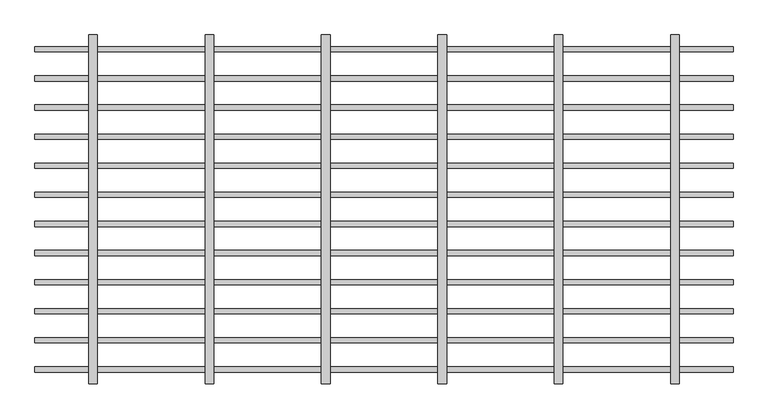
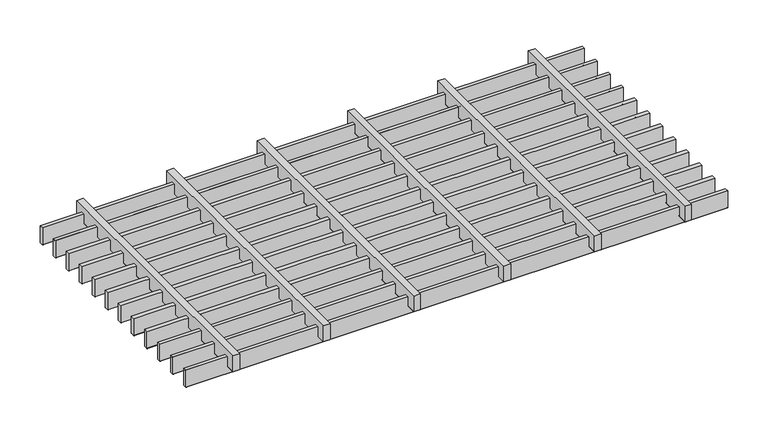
"""IFC4 building model written with IfcOpenShell, lengths in millimetres: proxy geometry, durlum_STARLAM_panel : durlum_STARLAM_9."""

from ifc_helpers import new_model, si_unit, point, frame, frame_2d, origin, place, context, project, spatial, polyline, circle_curve, trimmed, segment, composite_curve, outline, extrude, source, transform, mapped, element, save


def generic_models_532bcb0d(model_context):
    return source(origin(), model_context, "Body", "SweptSolid", [
        extrude(outline(composite_curve([segment(polyline([(-229.5, 40.0), (-220.5, 40.0), (-220.5, 0.5)]), True, "CONTINUOUS"), segment(trimmed(circle_curve(frame_2d((-221.0, 0.5)), 0.5), [point((-220.5, 0.5))], [point((-221.0, 0.0))], False, "CARTESIAN"), True, "CONTINUOUS"), segment(polyline([(-221.0, 0.0), (-229.0, 0.0)]), True, "CONTINUOUS"), segment(trimmed(circle_curve(frame_2d((-229.0, 0.5)), 0.5), [point((-229.0, 0.0))], [point((-229.5, 0.5))], False, "CARTESIAN"), True, "CONTINUOUS"), segment(polyline([(-229.5, 0.5), (-229.5, 40.0)]), True, "CONTINUOUS")], self_intersect=False)), frame((-599.75, 0.0, 0.0), z_axis=(1.0, 0.0, 0.0), x_axis=(0.0, 1.0, 0.0)), (0.0, 0.0, 1.0), 1199.5),
        extrude(outline(composite_curve([segment(polyline([(-179.5, 40.0), (-170.5, 40.0), (-170.5, 0.5)]), True, "CONTINUOUS"), segment(trimmed(circle_curve(frame_2d((-171.0, 0.5)), 0.5), [point((-170.5, 0.5))], [point((-171.0, 0.0))], False, "CARTESIAN"), True, "CONTINUOUS"), segment(polyline([(-171.0, 0.0), (-179.0, 0.0)]), True, "CONTINUOUS"), segment(trimmed(circle_curve(frame_2d((-179.0, 0.5)), 0.5), [point((-179.0, 0.0))], [point((-179.5, 0.5))], False, "CARTESIAN"), True, "CONTINUOUS"), segment(polyline([(-179.5, 0.5), (-179.5, 40.0)]), True, "CONTINUOUS")], self_intersect=False)), frame((-599.75, 0.0, 0.0), z_axis=(1.0, 0.0, 0.0), x_axis=(0.0, 1.0, 0.0)), (0.0, 0.0, 1.0), 1199.5),
        extrude(outline(composite_curve([segment(polyline([(-129.5, 40.0), (-120.5, 40.0), (-120.5, 0.5)]), True, "CONTINUOUS"), segment(trimmed(circle_curve(frame_2d((-121.0, 0.5)), 0.5), [point((-120.5, 0.5))], [point((-121.0, 0.0))], False, "CARTESIAN"), True, "CONTINUOUS"), segment(polyline([(-121.0, 0.0), (-129.0, 0.0)]), True, "CONTINUOUS"), segment(trimmed(circle_curve(frame_2d((-129.0, 0.5)), 0.5), [point((-129.0, 0.0))], [point((-129.5, 0.5))], False, "CARTESIAN"), True, "CONTINUOUS"), segment(polyline([(-129.5, 0.5), (-129.5, 40.0)]), True, "CONTINUOUS")], self_intersect=False)), frame((-599.75, 0.0, 0.0), z_axis=(1.0, 0.0, 0.0), x_axis=(0.0, 1.0, 0.0)), (0.0, 0.0, 1.0), 1199.5),
        extrude(outline(composite_curve([segment(polyline([(-79.5, 40.0), (-70.5, 40.0), (-70.5, 0.5)]), True, "CONTINUOUS"), segment(trimmed(circle_curve(frame_2d((-71.0, 0.5)), 0.5), [point((-70.5, 0.5))], [point((-71.0, 0.0))], False, "CARTESIAN"), True, "CONTINUOUS"), segment(polyline([(-71.0, 0.0), (-79.0, 0.0)]), True, "CONTINUOUS"), segment(trimmed(circle_curve(frame_2d((-79.0, 0.5)), 0.5), [point((-79.0, 0.0))], [point((-79.5, 0.5))], False, "CARTESIAN"), True, "CONTINUOUS"), segment(polyline([(-79.5, 0.5), (-79.5, 40.0)]), True, "CONTINUOUS")], self_intersect=False)), frame((-599.75, 0.0, 0.0), z_axis=(1.0, 0.0, 0.0), x_axis=(0.0, 1.0, 0.0)), (0.0, 0.0, 1.0), 1199.5),
        extrude(outline(composite_curve([segment(polyline([(54.0, 307.5), (54.0, 292.5), (17.5, 292.5)]), True, "CONTINUOUS"), segment(trimmed(circle_curve(frame_2d((17.5, 293.0)), 0.5), [point((17.5, 292.5))], [point((17.0, 293.0))], False, "CARTESIAN"), True, "CONTINUOUS"), segment(polyline([(17.0, 293.0), (17.0, 307.0)]), True, "CONTINUOUS"), segment(trimmed(circle_curve(frame_2d((17.5, 307.0)), 0.5), [point((17.0, 307.0))], [point((17.5, 307.5))], False, "CARTESIAN"), True, "CONTINUOUS"), segment(polyline([(17.5, 307.5), (54.0, 307.5)]), True, "CONTINUOUS")], self_intersect=False)), frame((0.0, -299.75, 0.0), z_axis=(0.0, 1.0, 0.0), x_axis=(0.0, 0.0, 1.0)), (0.0, 0.0, 1.0), 599.5),
        extrude(outline(composite_curve([segment(polyline([(54.0, 107.5), (54.0, 92.5), (17.5, 92.5)]), True, "CONTINUOUS"), segment(trimmed(circle_curve(frame_2d((17.5, 93.0)), 0.5), [point((17.5, 92.5))], [point((17.0, 93.0))], False, "CARTESIAN"), True, "CONTINUOUS"), segment(polyline([(17.0, 93.0), (17.0, 107.0)]), True, "CONTINUOUS"), segment(trimmed(circle_curve(frame_2d((17.5, 107.0)), 0.5), [point((17.0, 107.0))], [point((17.5, 107.5))], False, "CARTESIAN"), True, "CONTINUOUS"), segment(polyline([(17.5, 107.5), (54.0, 107.5)]), True, "CONTINUOUS")], self_intersect=False)), frame((0.0, -299.75, 0.0), z_axis=(0.0, 1.0, 0.0), x_axis=(0.0, 0.0, 1.0)), (0.0, 0.0, 1.0), 599.5),
        extrude(outline(composite_curve([segment(polyline([(54.0, -92.5), (54.0, -107.5), (17.5, -107.5)]), True, "CONTINUOUS"), segment(trimmed(circle_curve(frame_2d((17.5, -107.0)), 0.5), [point((17.5, -107.5))], [point((17.0, -107.0))], False, "CARTESIAN"), True, "CONTINUOUS"), segment(polyline([(17.0, -107.0), (17.0, -93.0)]), True, "CONTINUOUS"), segment(trimmed(circle_curve(frame_2d((17.5, -93.0)), 0.5), [point((17.0, -93.0))], [point((17.5, -92.5))], False, "CARTESIAN"), True, "CONTINUOUS"), segment(polyline([(17.5, -92.5), (54.0, -92.5)]), True, "CONTINUOUS")], self_intersect=False)), frame((0.0, -299.75, 0.0), z_axis=(0.0, 1.0, 0.0), x_axis=(0.0, 0.0, 1.0)), (0.0, 0.0, 1.0), 599.5),
        extrude(outline(composite_curve([segment(polyline([(54.0, -292.5), (54.0, -307.5), (17.5, -307.5)]), True, "CONTINUOUS"), segment(trimmed(circle_curve(frame_2d((17.5, -307.0)), 0.5), [point((17.5, -307.5))], [point((17.0, -307.0))], False, "CARTESIAN"), True, "CONTINUOUS"), segment(polyline([(17.0, -307.0), (17.0, -293.0)]), True, "CONTINUOUS"), segment(trimmed(circle_curve(frame_2d((17.5, -293.0)), 0.5), [point((17.0, -293.0))], [point((17.5, -292.5))], False, "CARTESIAN"), True, "CONTINUOUS"), segment(polyline([(17.5, -292.5), (54.0, -292.5)]), True, "CONTINUOUS")], self_intersect=False)), frame((0.0, -299.75, 0.0), z_axis=(0.0, 1.0, 0.0), x_axis=(0.0, 0.0, 1.0)), (0.0, 0.0, 1.0), 599.5),
        extrude(outline(composite_curve([segment(polyline([(-29.5, 40.0), (-20.5, 40.0), (-20.5, 0.5)]), True, "CONTINUOUS"), segment(trimmed(circle_curve(frame_2d((-21.0, 0.5)), 0.5), [point((-20.5, 0.5))], [point((-21.0, 0.0))], False, "CARTESIAN"), True, "CONTINUOUS"), segment(polyline([(-21.0, 0.0), (-29.0, 0.0)]), True, "CONTINUOUS"), segment(trimmed(circle_curve(frame_2d((-29.0, 0.5)), 0.5), [point((-29.0, 0.0))], [point((-29.5, 0.5))], False, "CARTESIAN"), True, "CONTINUOUS"), segment(polyline([(-29.5, 0.5), (-29.5, 40.0)]), True, "CONTINUOUS")], self_intersect=False)), frame((-599.75, 0.0, 0.0), z_axis=(1.0, 0.0, 0.0), x_axis=(0.0, 1.0, 0.0)), (0.0, 0.0, 1.0), 1199.5),
        extrude(outline(composite_curve([segment(polyline([(20.5, 40.0), (29.5, 40.0), (29.5, 0.5)]), True, "CONTINUOUS"), segment(trimmed(circle_curve(frame_2d((29.0, 0.5)), 0.5), [point((29.5, 0.5))], [point((29.0, 0.0))], False, "CARTESIAN"), True, "CONTINUOUS"), segment(polyline([(29.0, 0.0), (21.0, 0.0)]), True, "CONTINUOUS"), segment(trimmed(circle_curve(frame_2d((21.0, 0.5)), 0.5), [point((21.0, 0.0))], [point((20.5, 0.5))], False, "CARTESIAN"), True, "CONTINUOUS"), segment(polyline([(20.5, 0.5), (20.5, 40.0)]), True, "CONTINUOUS")], self_intersect=False)), frame((-599.75, 0.0, 0.0), z_axis=(1.0, 0.0, 0.0), x_axis=(0.0, 1.0, 0.0)), (0.0, 0.0, 1.0), 1199.5),
        extrude(outline(composite_curve([segment(polyline([(70.5, 40.0), (79.5, 40.0), (79.5, 0.5)]), True, "CONTINUOUS"), segment(trimmed(circle_curve(frame_2d((79.0, 0.5)), 0.5), [point((79.5, 0.5))], [point((79.0, 0.0))], False, "CARTESIAN"), True, "CONTINUOUS"), segment(polyline([(79.0, 0.0), (71.0, 0.0)]), True, "CONTINUOUS"), segment(trimmed(circle_curve(frame_2d((71.0, 0.5)), 0.5), [point((71.0, 0.0))], [point((70.5, 0.5))], False, "CARTESIAN"), True, "CONTINUOUS"), segment(polyline([(70.5, 0.5), (70.5, 40.0)]), True, "CONTINUOUS")], self_intersect=False)), frame((-599.75, 0.0, 0.0), z_axis=(1.0, 0.0, 0.0), x_axis=(0.0, 1.0, 0.0)), (0.0, 0.0, 1.0), 1199.5),
        extrude(outline(composite_curve([segment(polyline([(120.5, 40.0), (129.5, 40.0), (129.5, 0.5)]), True, "CONTINUOUS"), segment(trimmed(circle_curve(frame_2d((129.0, 0.5)), 0.5), [point((129.5, 0.5))], [point((129.0, 0.0))], False, "CARTESIAN"), True, "CONTINUOUS"), segment(polyline([(129.0, 0.0), (121.0, 0.0)]), True, "CONTINUOUS"), segment(trimmed(circle_curve(frame_2d((121.0, 0.5)), 0.5), [point((121.0, 0.0))], [point((120.5, 0.5))], False, "CARTESIAN"), True, "CONTINUOUS"), segment(polyline([(120.5, 0.5), (120.5, 40.0)]), True, "CONTINUOUS")], self_intersect=False)), frame((-599.75, 0.0, 0.0), z_axis=(1.0, 0.0, 0.0), x_axis=(0.0, 1.0, 0.0)), (0.0, 0.0, 1.0), 1199.5),
        extrude(outline(composite_curve([segment(polyline([(170.5, 40.0), (179.5, 40.0), (179.5, 0.5)]), True, "CONTINUOUS"), segment(trimmed(circle_curve(frame_2d((179.0, 0.5)), 0.5), [point((179.5, 0.5))], [point((179.0, 0.0))], False, "CARTESIAN"), True, "CONTINUOUS"), segment(polyline([(179.0, 0.0), (171.0, 0.0)]), True, "CONTINUOUS"), segment(trimmed(circle_curve(frame_2d((171.0, 0.5)), 0.5), [point((171.0, 0.0))], [point((170.5, 0.5))], False, "CARTESIAN"), True, "CONTINUOUS"), segment(polyline([(170.5, 0.5), (170.5, 40.0)]), True, "CONTINUOUS")], self_intersect=False)), frame((-599.75, 0.0, 0.0), z_axis=(1.0, 0.0, 0.0), x_axis=(0.0, 1.0, 0.0)), (0.0, 0.0, 1.0), 1199.5),
        extrude(outline(composite_curve([segment(polyline([(220.5, 40.0), (229.5, 40.0), (229.5, 0.5)]), True, "CONTINUOUS"), segment(trimmed(circle_curve(frame_2d((229.0, 0.5)), 0.5), [point((229.5, 0.5))], [point((229.0, 0.0))], False, "CARTESIAN"), True, "CONTINUOUS"), segment(polyline([(229.0, 0.0), (221.0, 0.0)]), True, "CONTINUOUS"), segment(trimmed(circle_curve(frame_2d((221.0, 0.5)), 0.5), [point((221.0, 0.0))], [point((220.5, 0.5))], False, "CARTESIAN"), True, "CONTINUOUS"), segment(polyline([(220.5, 0.5), (220.5, 40.0)]), True, "CONTINUOUS")], self_intersect=False)), frame((-599.75, 0.0, 0.0), z_axis=(1.0, 0.0, 0.0), x_axis=(0.0, 1.0, 0.0)), (0.0, 0.0, 1.0), 1199.5),
        extrude(outline(composite_curve([segment(polyline([(54.0, 507.5), (54.0, 492.5), (17.5, 492.5)]), True, "CONTINUOUS"), segment(trimmed(circle_curve(frame_2d((17.5, 493.0)), 0.5), [point((17.5, 492.5))], [point((17.0, 493.0))], False, "CARTESIAN"), True, "CONTINUOUS"), segment(polyline([(17.0, 493.0), (17.0, 507.0)]), True, "CONTINUOUS"), segment(trimmed(circle_curve(frame_2d((17.5, 507.0)), 0.5), [point((17.0, 507.0))], [point((17.5, 507.5))], False, "CARTESIAN"), True, "CONTINUOUS"), segment(polyline([(17.5, 507.5), (54.0, 507.5)]), True, "CONTINUOUS")], self_intersect=False)), frame((0.0, -299.75, 0.0), z_axis=(0.0, 1.0, 0.0), x_axis=(0.0, 0.0, 1.0)), (0.0, 0.0, 1.0), 599.5),
        extrude(outline(composite_curve([segment(polyline([(54.0, -492.5), (54.0, -507.5), (17.5, -507.5)]), True, "CONTINUOUS"), segment(trimmed(circle_curve(frame_2d((17.5, -507.0)), 0.5), [point((17.5, -507.5))], [point((17.0, -507.0))], False, "CARTESIAN"), True, "CONTINUOUS"), segment(polyline([(17.0, -507.0), (17.0, -493.0)]), True, "CONTINUOUS"), segment(trimmed(circle_curve(frame_2d((17.5, -493.0)), 0.5), [point((17.0, -493.0))], [point((17.5, -492.5))], False, "CARTESIAN"), True, "CONTINUOUS"), segment(polyline([(17.5, -492.5), (54.0, -492.5)]), True, "CONTINUOUS")], self_intersect=False)), frame((0.0, -299.75, 0.0), z_axis=(0.0, 1.0, 0.0), x_axis=(0.0, 0.0, 1.0)), (0.0, 0.0, 1.0), 599.5),
        extrude(outline(composite_curve([segment(polyline([(-279.5, 40.0), (-270.5, 40.0), (-270.5, 0.5)]), True, "CONTINUOUS"), segment(trimmed(circle_curve(frame_2d((-271.0, 0.5)), 0.5), [point((-270.5, 0.5))], [point((-271.0, 0.0))], False, "CARTESIAN"), True, "CONTINUOUS"), segment(polyline([(-271.0, 0.0), (-279.0, 0.0)]), True, "CONTINUOUS"), segment(trimmed(circle_curve(frame_2d((-279.0, 0.5)), 0.5), [point((-279.0, 0.0))], [point((-279.5, 0.5))], False, "CARTESIAN"), True, "CONTINUOUS"), segment(polyline([(-279.5, 0.5), (-279.5, 40.0)]), True, "CONTINUOUS")], self_intersect=False)), frame((-599.75, 0.0, 0.0), z_axis=(1.0, 0.0, 0.0), x_axis=(0.0, 1.0, 0.0)), (0.0, 0.0, 1.0), 1199.5),
        extrude(outline(composite_curve([segment(polyline([(270.5, 40.0), (279.5, 40.0), (279.5, 0.5)]), True, "CONTINUOUS"), segment(trimmed(circle_curve(frame_2d((279.0, 0.5)), 0.5), [point((279.5, 0.5))], [point((279.0, 0.0))], False, "CARTESIAN"), True, "CONTINUOUS"), segment(polyline([(279.0, 0.0), (271.0, 0.0)]), True, "CONTINUOUS"), segment(trimmed(circle_curve(frame_2d((271.0, 0.5)), 0.5), [point((271.0, 0.0))], [point((270.5, 0.5))], False, "CARTESIAN"), True, "CONTINUOUS"), segment(polyline([(270.5, 0.5), (270.5, 40.0)]), True, "CONTINUOUS")], self_intersect=False)), frame((-599.75, 0.0, 0.0), z_axis=(1.0, 0.0, 0.0), x_axis=(0.0, 1.0, 0.0)), (0.0, 0.0, 1.0), 1199.5),
    ])


if __name__ == "__main__":
    model = new_model("IFC4")
    model_context = context("Model", 3, world=origin())
    ifc_project = project(units=[si_unit("LENGTHUNIT", "METRE", prefix="MILLI")], contexts=[model_context])
    site = spatial("IfcSite", under=ifc_project)
    building = spatial("IfcBuilding", under=site)
    placement = place(None, origin())
    generic_models_shape = generic_models_532bcb0d(model_context)
    element("IfcBuildingElementProxy", 1, Name="durlum_STARLAM_panel : durlum_STARLAM_9", ObjectType="durlum_STARLAM_panel : durlum_STARLAM_9", at=placement, inside=building, context=model_context, shape_type="MappedRepresentation", body=[
        mapped(generic_models_shape, transform((0.0, 0.0, 0.0), x_axis=(1.0, 0.0, 0.0), y_axis=(0.0, 1.0, 0.0), z_axis=(0.0, 0.0, 1.0))),
    ])
    save(model, "model.ifc")
